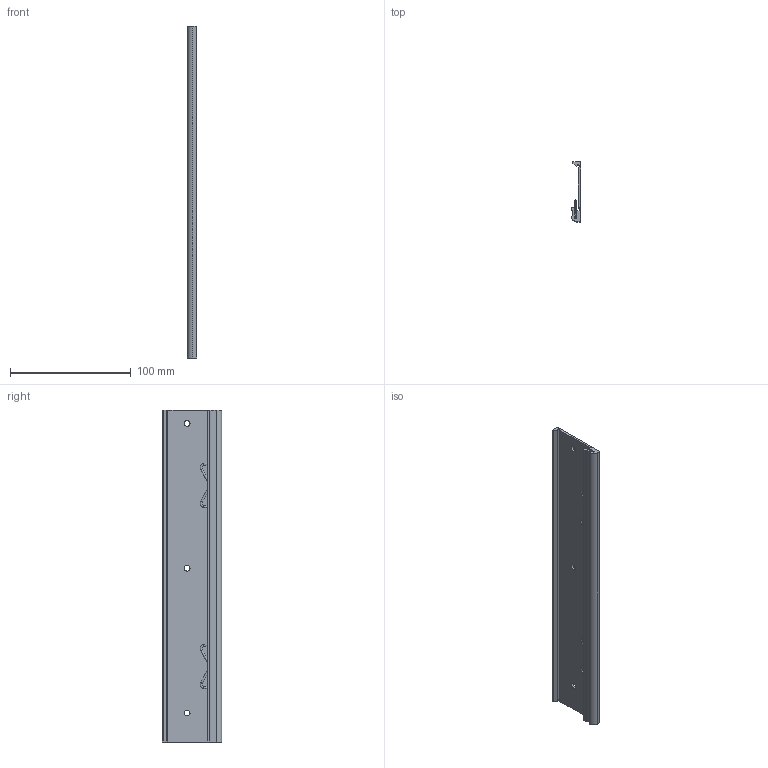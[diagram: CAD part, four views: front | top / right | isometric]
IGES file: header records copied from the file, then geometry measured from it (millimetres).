
Start section:  PTC IGES file: cu_din_smasher_8slot.igs
Global section: file name: cu_din_smasher_8slot.igs; native system: Creo Parametric by Parametric Technology Corporation; preprocessor: 2014000; author: jbuhisan; organization: Unknown; date: 20151120.141625; units: inch
Bounding box: 7.49 x 49.33 x 275 mm (x, y, z)
Surface area: 39911.8 mm2 (no closed solid volume)
Topology: 0 solids, 0 shells, 78 faces, 352 edges, 352 vertices
Faces by surface type: revolution 53, bspline 25
